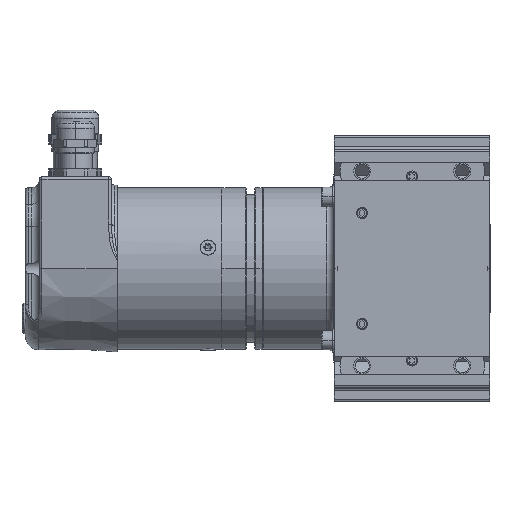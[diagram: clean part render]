
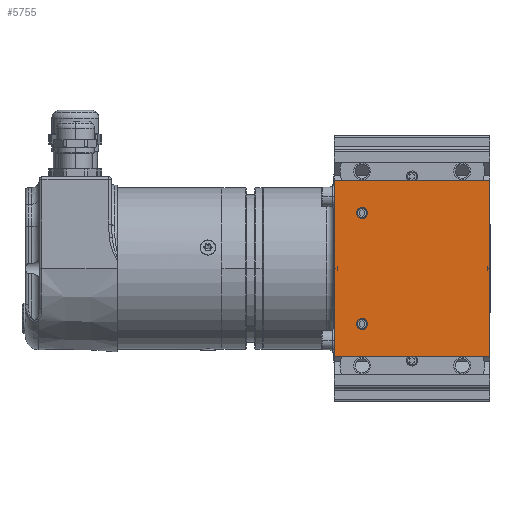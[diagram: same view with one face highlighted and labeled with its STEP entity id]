
A CAD part, front view. The second image highlights one B-rep face of the part: STEP entity #5755.
In plain terms, the highlighted planar face has unit normal (0, -1, 0).
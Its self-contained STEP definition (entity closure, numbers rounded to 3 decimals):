
#654=DIRECTION('',(1.,0.,0.));
#655=VECTOR('',#654,63.5);
#656=CARTESIAN_POINT('',(-31.75,-48.,0.));
#657=LINE('',#656,#655);
#1585=DIRECTION('',(1.,0.,0.));
#1586=VECTOR('',#1585,63.5);
#1587=CARTESIAN_POINT('',(-31.75,-48.,56.));
#1588=LINE('',#1587,#1586);
#2975=DIRECTION('',(0.,0.,1.));
#2976=VECTOR('',#2975,56.);
#2977=CARTESIAN_POINT('',(31.75,-48.,0.));
#2978=LINE('',#2977,#2976);
#2982=DIRECTION('',(0.,0.,1.));
#2983=VECTOR('',#2982,56.);
#2984=CARTESIAN_POINT('',(-31.75,-48.,0.));
#2985=LINE('',#2984,#2983);
#2989=CARTESIAN_POINT('',(20.,-48.,46.));
#2990=DIRECTION('',(0.,1.,0.));
#2991=DIRECTION('',(1.,0.,0.));
#2992=AXIS2_PLACEMENT_3D('',#2989,#2990,#2991);
#2997=CARTESIAN_POINT('',(20.,-48.,46.));
#2998=DIRECTION('',(0.,1.,0.));
#2999=DIRECTION('',(-1.,0.,0.));
#3000=AXIS2_PLACEMENT_3D('',#2997,#2998,#2999);
#3005=CARTESIAN_POINT('',(-20.,-48.,46.));
#3006=DIRECTION('',(0.,1.,0.));
#3007=DIRECTION('',(1.,0.,0.));
#3008=AXIS2_PLACEMENT_3D('',#3005,#3006,#3007);
#3013=CARTESIAN_POINT('',(-20.,-48.,46.));
#3014=DIRECTION('',(0.,1.,0.));
#3015=DIRECTION('',(-1.,0.,0.));
#3016=AXIS2_PLACEMENT_3D('',#3013,#3014,#3015);
#3802=CARTESIAN_POINT('',(21.65,-48.,46.));
#3804=VERTEX_POINT('',#3802);
#3806=CARTESIAN_POINT('',(18.35,-48.,46.));
#3808=VERTEX_POINT('',#3806);
#3810=CARTESIAN_POINT('',(-18.35,-48.,46.));
#3812=VERTEX_POINT('',#3810);
#3814=CARTESIAN_POINT('',(-21.65,-48.,46.));
#3816=VERTEX_POINT('',#3814);
#3899=CARTESIAN_POINT('',(-31.75,-48.,0.));
#3900=VERTEX_POINT('',#3899);
#3901=CARTESIAN_POINT('',(31.75,-48.,0.));
#3902=VERTEX_POINT('',#3901);
#4035=CARTESIAN_POINT('',(-31.75,-48.,56.));
#4036=VERTEX_POINT('',#4035);
#4037=CARTESIAN_POINT('',(31.75,-48.,56.));
#4038=VERTEX_POINT('',#4037);
#5731=CARTESIAN_POINT('',(-31.75,-48.,0.));
#5732=DIRECTION('',(0.,-1.,0.));
#5733=DIRECTION('',(1.,0.,0.));
#5734=AXIS2_PLACEMENT_3D('',#5731,#5732,#5733);
#5735=PLANE('',#5734);
#5736=ORIENTED_EDGE('',*,*,#4261,.F.);
#5738=ORIENTED_EDGE('',*,*,#5737,.T.);
#5739=ORIENTED_EDGE('',*,*,#4588,.T.);
#5740=ORIENTED_EDGE('',*,*,#5724,.F.);
#5741=EDGE_LOOP('',(#5736,#5738,#5739,#5740));
#5742=FACE_OUTER_BOUND('',#5741,.F.);
#5744=ORIENTED_EDGE('',*,*,#5743,.F.);
#5746=ORIENTED_EDGE('',*,*,#5745,.F.);
#5747=EDGE_LOOP('',(#5744,#5746));
#5748=FACE_BOUND('',#5747,.F.);
#5750=ORIENTED_EDGE('',*,*,#5749,.F.);
#5752=ORIENTED_EDGE('',*,*,#5751,.F.);
#5753=EDGE_LOOP('',(#5750,#5752));
#5754=FACE_BOUND('',#5753,.F.);
#2993=CIRCLE('',#2992,1.65);
#3001=CIRCLE('',#3000,1.65);
#3009=CIRCLE('',#3008,1.65);
#3017=CIRCLE('',#3016,1.65);
#4261=EDGE_CURVE('',#3900,#3902,#657,.T.);
#4588=EDGE_CURVE('',#4036,#4038,#1588,.T.);
#5724=EDGE_CURVE('',#3902,#4038,#2978,.T.);
#5737=EDGE_CURVE('',#3900,#4036,#2985,.T.);
#5743=EDGE_CURVE('',#3804,#3808,#2993,.T.);
#5745=EDGE_CURVE('',#3808,#3804,#3001,.T.);
#5749=EDGE_CURVE('',#3812,#3816,#3009,.T.);
#5751=EDGE_CURVE('',#3816,#3812,#3017,.T.);
#5755=ADVANCED_FACE('',(#5742,#5748,#5754),#5735,.T.);
